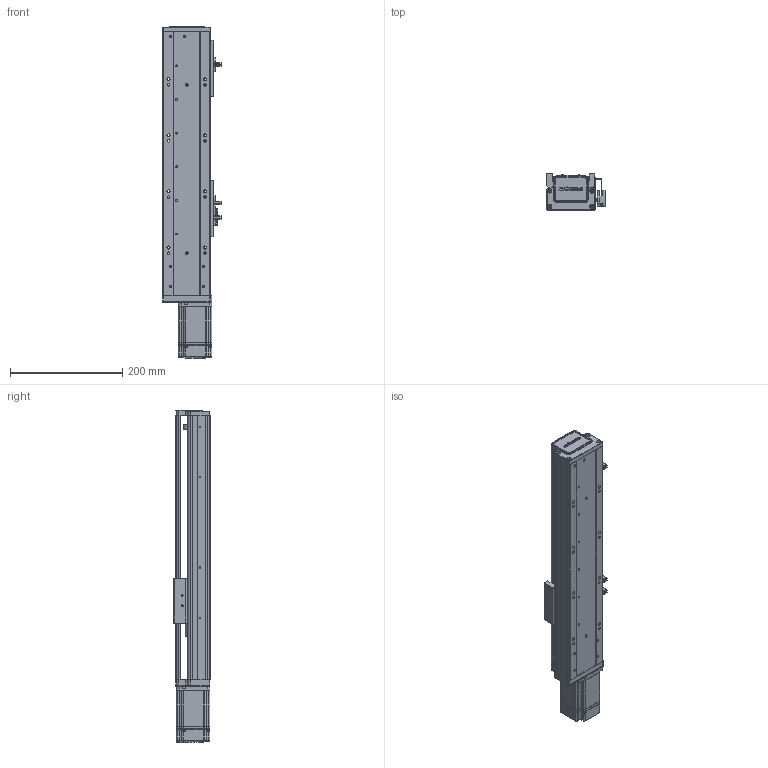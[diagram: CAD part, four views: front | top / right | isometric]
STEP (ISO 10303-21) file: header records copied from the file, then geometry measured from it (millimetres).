
FILE_DESCRIPTION (( 'STEP AP203' ), '1' );
FILE_NAME ('RY80-L1620-300-MK.SLDASM_250.step', '2021-02-20T02:33:03', ( '' ), ( '' ), 'SwSTEP 2.0', 'SolidWorks 2012', '' );
FILE_SCHEMA (( 'CONFIG_CONTROL_DESIGN' ));
Products named in the file (14): RY80綴裔啣; RY80-L1620-300-MK.SLDASM_250; RY80前盖板(100W电机 PCD46 M4); 滅袉蝶18-24; 覜茼ん672; 672嫖萇羲壽假蚾釱; RY80俋离覜茼え; RY80前盖板(200W电机)M4; 滅袉蝶18-10; 侂狟200W萇儂; 1; RY80-300-MK倰第奻裔啣_250; RY80臏賑輸; RY80-300-MK倰第菁釱_250
Assembly tree (16 placements, depth 3):
  RY80-L1620-300-MK.SLDASM_250
    RY80-300-MK倰第菁釱_250
    RY80臏賑輸
    RY80-300-MK倰第奻裔啣_250
    RY80前盖板(200W电机)M4
    侂狟200W萇儂
      1
    滅袉蝶18-10
    672嫖萇羲壽假蚾釱  x2
    覜茼ん672  x3
    RY80俋离覜茼え
    滅袉蝶18-24
    RY80綴裔啣
    RY80前盖板(100W电机 PCD46 M4)
Bounding box: 103.7 x 65 x 592 mm (x, y, z)
Volume: 1183563.2 mm3; surface area: 406834.7 mm2
Topology: 15 solids, 15 shells, 1936 faces, 5312 edges, 3457 vertices
Faces by surface type: plane 1093, cylinder 663, cone 126, bspline 54
Entity records: 60041 total; most frequent: CARTESIAN_POINT 14531, ORIENTED_EDGE 9364, DIRECTION 8847, EDGE_CURVE 4682, VERTEX_POINT 3073, LINE 2977, VECTOR 2977, AXIS2_PLACEMENT_3D 2935
